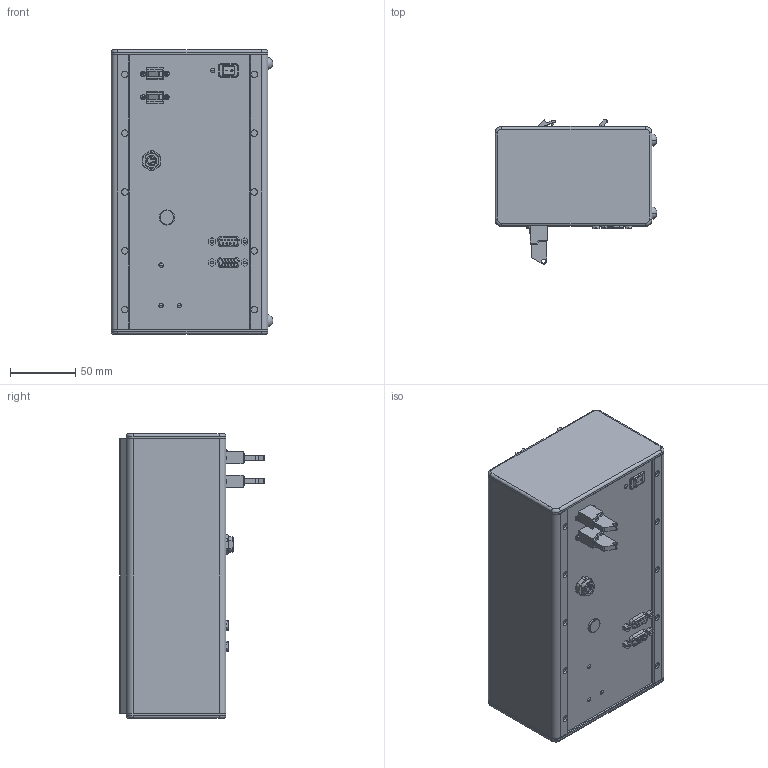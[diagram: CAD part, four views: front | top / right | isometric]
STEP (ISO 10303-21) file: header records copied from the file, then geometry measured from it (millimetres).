
FILE_DESCRIPTION (( 'STEP AP214' ), '1' );
FILE_NAME ('IFC2471 ohne Kabel, extrem vereinfacht.STEP', '2011-08-01T13:52:18', ( 'MICRO-EPSILON Optronic GmbH' ), ( 'MICRO-EPSILON Optronic GmbH' ), 'SwSTEP 2.0', 'SolidWorks 2009', '' );
FILE_SCHEMA (( 'AUTOMOTIVE_DESIGN' ));
Length unit declared in the file: millimetre
Products named in the file (1): IFC2471 ohne Kabel, extrem vereinfacht
Bounding box: 123.8 x 110.3 x 218 mm (x, y, z)
Volume: 1960865.6 mm3; surface area: 124619.6 mm2
Topology: 7 solids, 9 shells, 867 faces, 2196 edges, 1394 vertices
Faces by surface type: plane 379, cylinder 286, cone 131, torus 36, sphere 24, bspline 11
Entity records: 36707 total; most frequent: CARTESIAN_POINT 5853, DIRECTION 4594, ORIENTED_EDGE 4384, EDGE_CURVE 2192, AXIS2_PLACEMENT_3D 1729, VERTEX_POINT 1394, VECTOR 1136, LINE 1136
